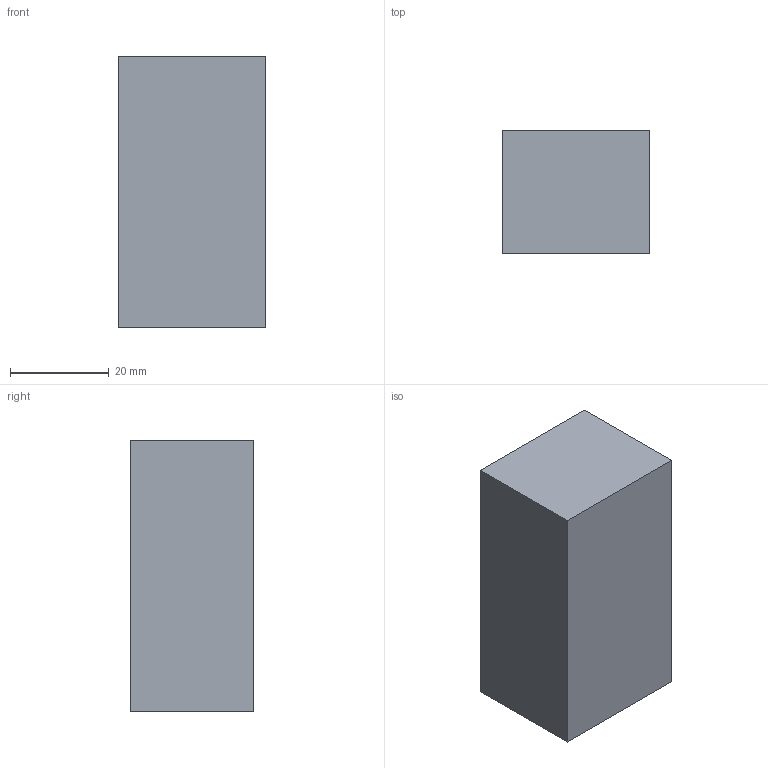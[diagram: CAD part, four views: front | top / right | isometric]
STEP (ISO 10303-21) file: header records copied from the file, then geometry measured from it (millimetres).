
FILE_DESCRIPTION(('Open CASCADE Model'),'2;1');
FILE_NAME('Open CASCADE Shape Model','2026-08-16T15:13:29',('Author'),( 'Open CASCADE'),'Open CASCADE STEP processor 7.9','Open CASCADE 7.9' ,'Unknown');
FILE_SCHEMA(('AUTOMOTIVE_DESIGN { 1 0 10303 214 1 1 1 1 }'));
Length unit declared in the file: millimetre
Products named in the file (1): Open CASCADE STEP translator 7.9 17
Bounding box: 30 x 25 x 55 mm (x, y, z)
Volume: 41250 mm3; surface area: 7550 mm2
Topology: 1 solids, 1 shells, 6 faces, 12 edges, 8 vertices
Faces by surface type: plane 6
Entity records: 322 total; most frequent: CARTESIAN_POINT 51, DIRECTION 50, LINE 36, VECTOR 36, ORIENTED_EDGE 24, PCURVE 24, DEFINITIONAL_REPRESENTATION 24, EDGE_CURVE 12
